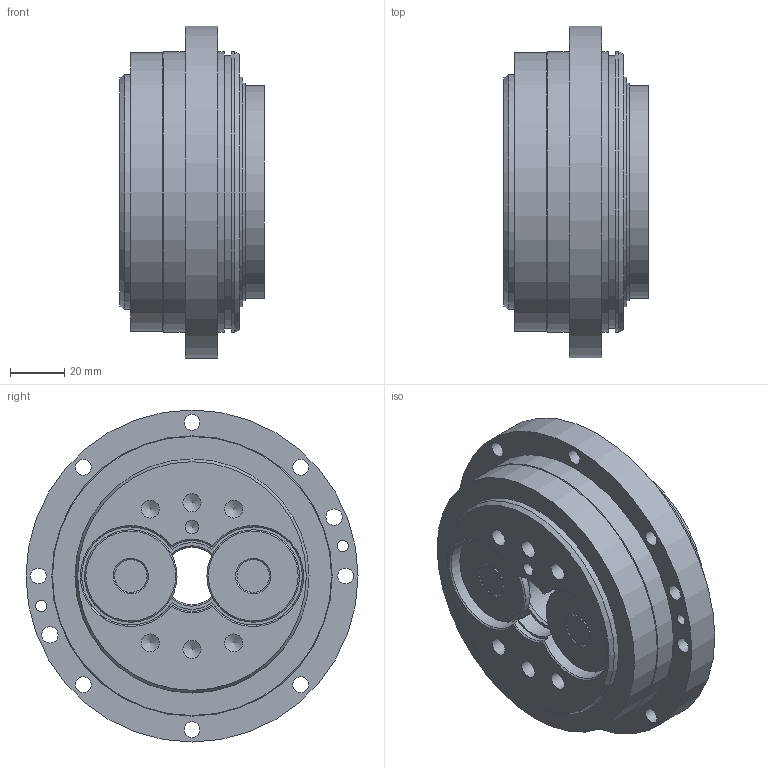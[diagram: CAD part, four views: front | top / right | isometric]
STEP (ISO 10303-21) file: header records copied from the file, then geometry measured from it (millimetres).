
FILE_DESCRIPTION((''),'2;1');
FILE_NAME('C:\Mike''s Jobs\4-MIKE-FROM-TH\Nabtesco\RV-Series\RV-6E.stp','2005-08-31T10:27:39',('Jeff Miles'),(''),'Autodesk Inventor 10','Autodesk Inventor 10','');
FILE_SCHEMA(('AUTOMOTIVE_DESIGN { 1 0 10303 214 1 1 1 1 }'));
Length unit declared in the file: millimetre
Products named in the file (5): RV-6E; RV-6E-Body; RV-6E-Ball; RV-6E-Gear; ISO 4762  (Regular Thread) M8 x 12
Assembly tree (43 placements, depth 2):
  RV-6E
    RV-6E-Body
    RV-6E-Ball  x36
    RV-6E-Gear  x2
    ISO 4762  (Regular Thread) M8 x 12  x4
Bounding box: 53 x 122 x 122 mm (x, y, z)
Volume: 395377.7 mm3; surface area: 68587.3 mm2
Topology: 43 solids, 43 shells, 217 faces, 512 edges, 335 vertices
Faces by surface type: plane 60, bspline 51, cylinder 36, sphere 36, cone 30, torus 4
Full cylindrical faces by diameter (mm): 8 x4, 9 x2, 12 x4, 13 x4, 20 x2, 21 x1, 34 x2, 78 x1, 80 x1, 84.4 x1, 86 x2, 100 x1, 102.6 x1, 103 x3, 122 x1
Entity records: 4147 total; most frequent: CARTESIAN_POINT 1387, DIRECTION 572, ORIENTED_EDGE 354, AXIS2_PLACEMENT_3D 276, EDGE_LOOP 267, EDGE_CURVE 177, VERTEX_POINT 160, CIRCLE 147
